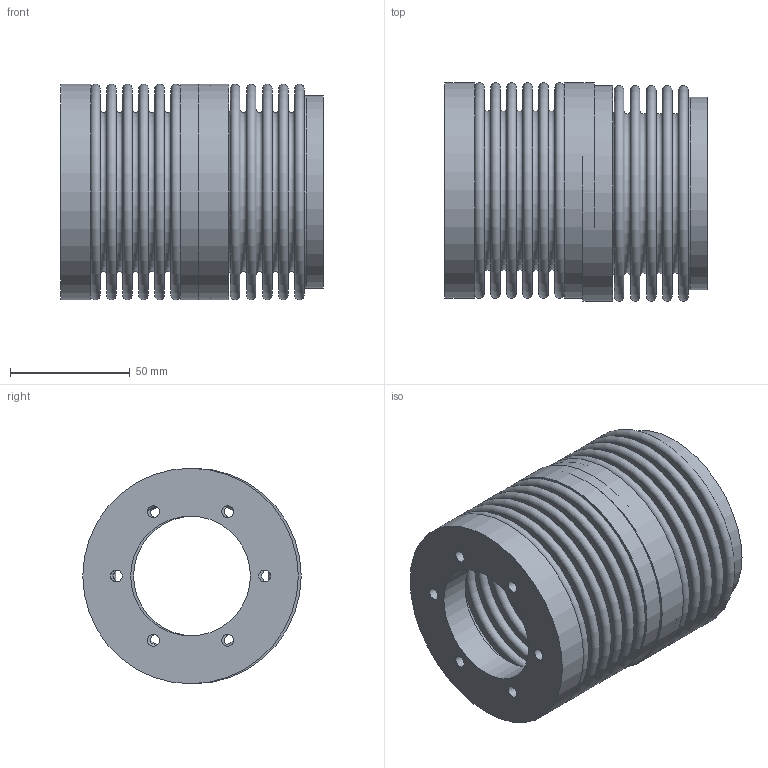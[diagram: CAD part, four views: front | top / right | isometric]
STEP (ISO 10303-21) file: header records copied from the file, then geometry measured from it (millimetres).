
FILE_DESCRIPTION( ( 'Unknown' ), '1' );
FILE_NAME( 'C:/Dokumente und Einstellungen/Sven/Desktop/homepage/cad - homepage/KB7/KB7-200-63.stp', 'Unknown', ( 'Unknown' ), ( 'Unknown' ), 'XStep 1.0', 'Unknown', ' ' );
FILE_SCHEMA( ( 'automotive_design' ) );
Length unit declared in the file: millimetre
Products named in the file (3): Assem1; FN200_Standard_0; BL200_Standard
Bounding box: 109.61 x 91.23 x 90 mm (x, y, z)
Volume: 209605.5 mm3; surface area: 209191 mm2
Topology: 5 solids, 5 shells, 140 faces, 242 edges, 160 vertices
Faces by surface type: plane 58, torus 50, cylinder 32
Full cylindrical faces by diameter (mm): 5 x18, 50 x3, 79.2 x4, 80.4 x4, 90 x3
Entity records: 1894 total; most frequent: DIRECTION 280, CARTESIAN_POINT 211, EDGE_LOOP 142, ORIENTED_EDGE 142, AXIS2_PLACEMENT_3D 140, FACE_OUTER_BOUND 102, EDGE_CURVE 71, VERTEX_POINT 71
